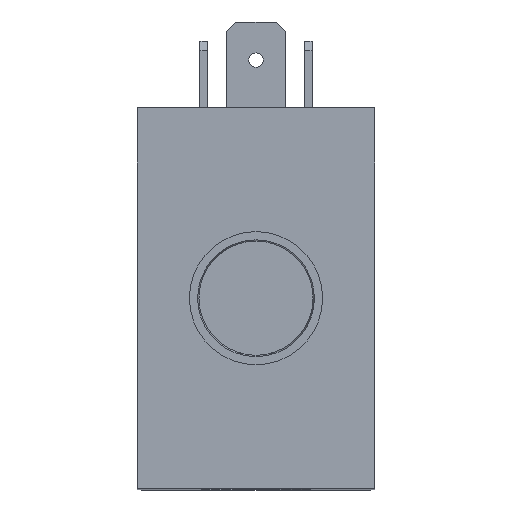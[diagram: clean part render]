
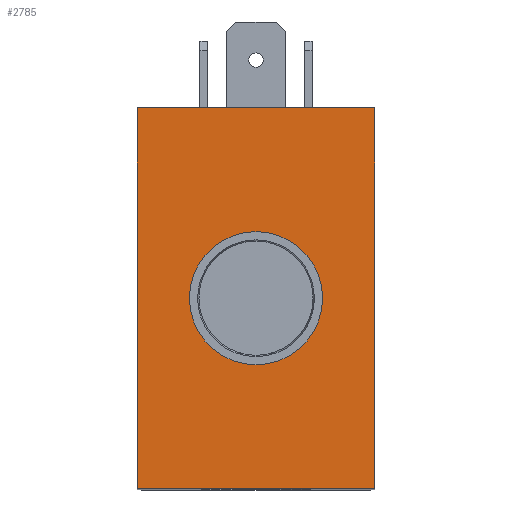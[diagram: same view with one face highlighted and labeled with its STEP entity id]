
A CAD part, top view. The second image highlights one B-rep face of the part: STEP entity #2785.
In plain terms, the highlighted planar face has unit normal (0, 0, 1).
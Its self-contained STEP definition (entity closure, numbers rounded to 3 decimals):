
#262 = ORIENTED_EDGE ( 'NONE', *, *, #1884, .F. ) ;
#263 = ORIENTED_EDGE ( 'NONE', *, *, #1614, .F. ) ;
#264 = ORIENTED_EDGE ( 'NONE', *, *, #1987, .F. ) ;
#265 = ORIENTED_EDGE ( 'NONE', *, *, #1893, .F. ) ;
#266 = ORIENTED_EDGE ( 'NONE', *, *, #1889, .T. ) ;
#267 = ORIENTED_EDGE ( 'NONE', *, *, #25458, .T. ) ;
#1567 = VERTEX_POINT ( 'NONE', #27102 ) ;
#1614 = EDGE_CURVE ( 'NONE', #26225, #12306, #4633, .T. ) ;
#1763 = VERTEX_POINT ( 'NONE', #5866 ) ;
#1884 = EDGE_CURVE ( 'NONE', #12306, #12223, #4910, .T. ) ;
#1889 = EDGE_CURVE ( 'NONE', #1763, #1567, #4917, .T. ) ;
#1893 = EDGE_CURVE ( 'NONE', #12223, #26174, #4922, .T. ) ;
#1987 = EDGE_CURVE ( 'NONE', #26174, #26225, #5065, .T. ) ;
#2785 = ADVANCED_FACE ( 'NONE', ( #11851, #11863 ), #12775, .T. ) ;
#2885 = EDGE_LOOP ( 'NONE', ( #262, #263, #264, #265 ) ) ;
#3014 = EDGE_LOOP ( 'NONE', ( #266, #267 ) ) ;
#4631 = VECTOR ( 'NONE', #27180, 1000. ) ;
#4633 = LINE ( 'NONE', #27174, #4631 ) ;
#4902 = VECTOR ( 'NONE', #6129, 1000. ) ;
#4910 = LINE ( 'NONE', #6118, #4902 ) ;
#4917 = CIRCLE ( 'NONE', #6928, 7. ) ;
#4922 = LINE ( 'NONE', #6150, #4923 ) ;
#4923 = VECTOR ( 'NONE', #6151, 1000. ) ;
#5048 = VECTOR ( 'NONE', #6383, 1000. ) ;
#5065 = LINE ( 'NONE', #6375, #5048 ) ;
#5866 = CARTESIAN_POINT ( 'NONE',  ( -7., 0., 74. ) ) ;
#6118 = CARTESIAN_POINT ( 'NONE',  ( -12.5, -20., 74. ) ) ;
#6129 = DIRECTION ( 'NONE',  ( 0., 1., 0. ) ) ;
#6138 = CARTESIAN_POINT ( 'NONE',  ( 0., 0., 74. ) ) ;
#6143 = DIRECTION ( 'NONE',  ( 0., 0., -1. ) ) ;
#6144 = DIRECTION ( 'NONE',  ( -1., 0., 0. ) ) ;
#6150 = CARTESIAN_POINT ( 'NONE',  ( -12.5, 20., 74. ) ) ;
#6151 = DIRECTION ( 'NONE',  ( 1., 0., 0. ) ) ;
#6375 = CARTESIAN_POINT ( 'NONE',  ( 12.5, 20., 74. ) ) ;
#6383 = DIRECTION ( 'NONE',  ( 0., -1., 0. ) ) ;
#6928 = AXIS2_PLACEMENT_3D ( 'NONE', #6138, #6143, #6144 ) ;
#7636 = AXIS2_PLACEMENT_3D ( 'NONE', #12774, #12776, #12777 ) ;
#11851 = FACE_OUTER_BOUND ( 'NONE', #2885, .T. ) ;
#11863 = FACE_BOUND ( 'NONE', #3014, .T. ) ;
#12223 = VERTEX_POINT ( 'NONE', #17608 ) ;
#12306 = VERTEX_POINT ( 'NONE', #17689 ) ;
#12774 = CARTESIAN_POINT ( 'NONE',  ( 0., 0., 74. ) ) ;
#12775 = PLANE ( 'NONE',  #7636 ) ;
#12776 = DIRECTION ( 'NONE',  ( 0., 0., 1. ) ) ;
#12777 = DIRECTION ( 'NONE',  ( 0.707, 0.707, 0. ) ) ;
#16621 = AXIS2_PLACEMENT_3D ( 'NONE', #22064, #22065, #22066 ) ;
#17608 = CARTESIAN_POINT ( 'NONE',  ( -12.5, 20., 74. ) ) ;
#17689 = CARTESIAN_POINT ( 'NONE',  ( -12.5, -20., 74. ) ) ;
#21393 = CIRCLE ( 'NONE', #16621, 7. ) ;
#22064 = CARTESIAN_POINT ( 'NONE',  ( 0., 0., 74. ) ) ;
#22065 = DIRECTION ( 'NONE',  ( 0., 0., -1. ) ) ;
#22066 = DIRECTION ( 'NONE',  ( -1., 0., 0. ) ) ;
#23278 = CARTESIAN_POINT ( 'NONE',  ( 12.5, 20., 74. ) ) ;
#23329 = CARTESIAN_POINT ( 'NONE',  ( 12.5, -20., 74. ) ) ;
#25458 = EDGE_CURVE ( 'NONE', #1567, #1763, #21393, .T. ) ;
#26174 = VERTEX_POINT ( 'NONE', #23278 ) ;
#26225 = VERTEX_POINT ( 'NONE', #23329 ) ;
#27102 = CARTESIAN_POINT ( 'NONE',  ( 7., 0., 74. ) ) ;
#27174 = CARTESIAN_POINT ( 'NONE',  ( 12.5, -20., 74. ) ) ;
#27180 = DIRECTION ( 'NONE',  ( -1., 0., 0. ) ) ;
